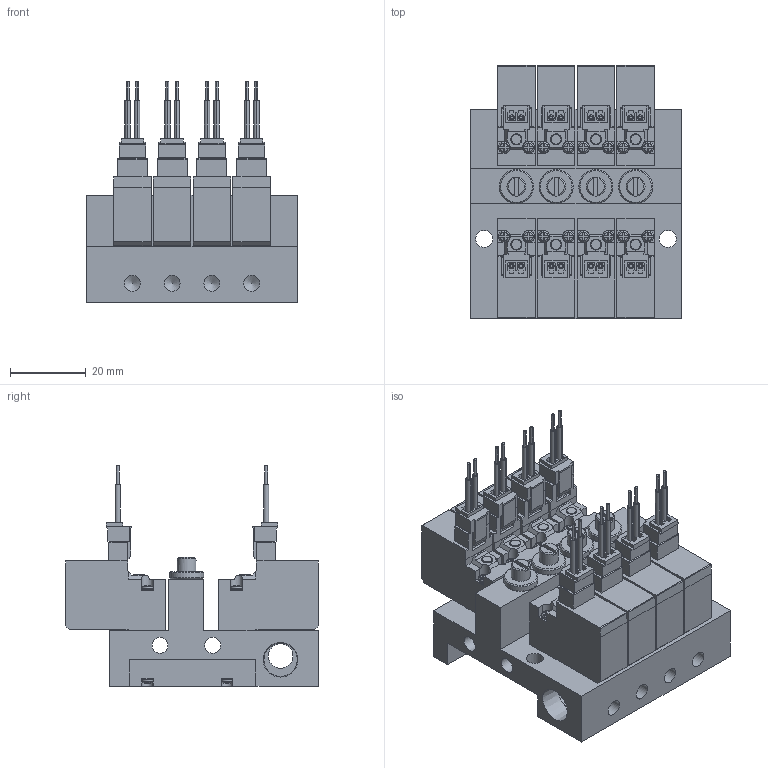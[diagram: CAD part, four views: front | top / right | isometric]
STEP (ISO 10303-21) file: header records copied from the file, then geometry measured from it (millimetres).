
FILE_DESCRIPTION(('STEP AP203'),'1');
FILE_NAME('3-NC-4EZ-M04.stp','2025-05-09T01:02:51',(' '),(' '),'Spatial InterOp 3D',' ',' ');
FILE_SCHEMA(('CONFIG_CONTROL_DESIGN'));
Length unit declared in the file: millimetre
Products named in the file (62): PV1※3-NC-4EZ-M04; BODY; PLATE; NEEDLE; BOLT; SOLENOID VALVE VOLTAGE PV; 42; 45; 48; 51
Assembly tree (61 placements, depth 3):
  PV1※3-NC-4EZ-M04
    BODY
    PLATE
    PLATE
    NEEDLE
    BOLT
    BOLT
    BOLT
    BOLT
    BOLT
    BOLT
    SOLENOID VALVE VOLTAGE PV
      42
      45
      48
      51
    SOLENOID VALVE VOLTAGE PV
      42
      45
      48
      51
    SOLENOID VALVE VOLTAGE PV
      42
      45
      48
      51
    NEEDLE
    SOLENOID VALVE VOLTAGE PV
      42
      45
      48
      51
    SOLENOID VALVE VOLTAGE PV
      42
      45
      48
      51
    NEEDLE
    SOLENOID VALVE VOLTAGE PV
      42
      45
      48
      51
    PLATE
    BOLT
    BOLT
    BOLT
    PLATE
    BOLT
    BOLT
    BOLT
    SOLENOID VALVE VOLTAGE PV
      42
      45
      48
      51
    NEEDLE
    SOLENOID VALVE VOLTAGE PV
      42
      45
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Bounding box: 55.5 x 66.8 x 58.25 mm (x, y, z)
Volume: 82064 mm3; surface area: 46449.3 mm2
Topology: 53 solids, 53 shells, 1941 faces, 5510 edges, 3801 vertices
Faces by surface type: plane 1368, cylinder 387, torus 104, bspline 56, cone 26
Full cylindrical faces by diameter (mm): 2 x12, 3 x12, 4.2 x10, 4.5 x2, 5 x4, 6.5 x1, 8.797 x2, 9 x4
Entity records: 67138 total; most frequent: CARTESIAN_POINT 12259, DIRECTION 11018, ORIENTED_EDGE 10752, EDGE_CURVE 5376, AXIS2_PLACEMENT_3D 3815, VERTEX_POINT 3760, LINE 3388, VECTOR 3388
